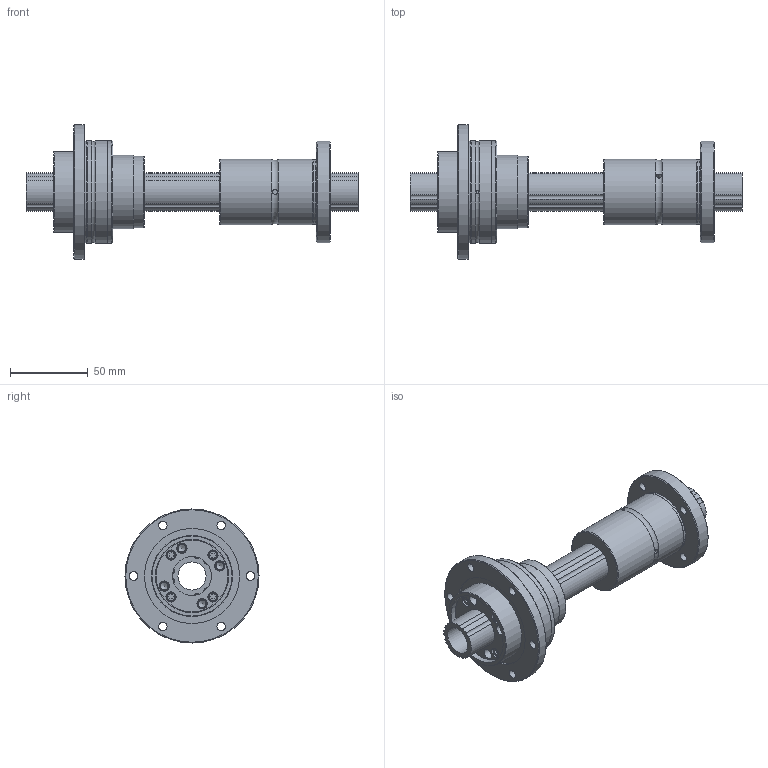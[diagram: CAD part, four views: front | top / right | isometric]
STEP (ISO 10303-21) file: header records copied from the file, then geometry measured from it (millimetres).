
FILE_DESCRIPTION(/* description */ ('STEP AP203'),/* implementation_level */ '2;1');
FILE_NAME(/* name */ 'NS2525A+213L',/* time_stamp */ '2025-06-11T08:45:44+02:00',/* author */ ('License CC BY-ND 4.0'),/* organization */ ('CADENAS'),/* preprocessor_version */ 'ST-DEVELOPER v19.3',/* originating_system */ 'PARTsolutions',/* authorisation */ ' ');
FILE_SCHEMA (('CONFIG_CONTROL_DESIGN'));
Length unit declared in the file: millimetre
Products named in the file (4): NS2525A+213L; NS 2525A+213L Shaft; NS 2525ASpline_b; NS 2525ASpline
Assembly tree (3 placements, depth 2):
  NS2525A+213L
    NS 2525A+213L Shaft
    NS 2525ASpline_b
    NS 2525ASpline
Bounding box: 213 x 86 x 86 mm (x, y, z)
Volume: 252070.8 mm3; surface area: 82393.2 mm2
Topology: 3 solids, 3 shells, 157 faces, 329 edges, 213 vertices
Faces by surface type: cylinder 66, plane 65, cone 16, torus 10
Full cylindrical faces by diameter (mm): 1.8 x1, 3 x3, 4.917 x4, 5.5 x14, 6.5 x4, 6.6 x4, 9.5 x4, 18 x1, 25 x2, 41.4 x1, 42 x2, 46 x2, 47 x2, 52 x2, 61 x2, 65 x1, 65.5 x1, 65.6 x1, 66 x2, 86 x1
Entity records: 3893 total; most frequent: DIRECTION 698, CARTESIAN_POINT 647, ORIENTED_EDGE 468, AXIS2_PLACEMENT_3D 307, FACE_BOUND 302, EDGE_LOOP 298, EDGE_CURVE 234, VERTEX_POINT 202
